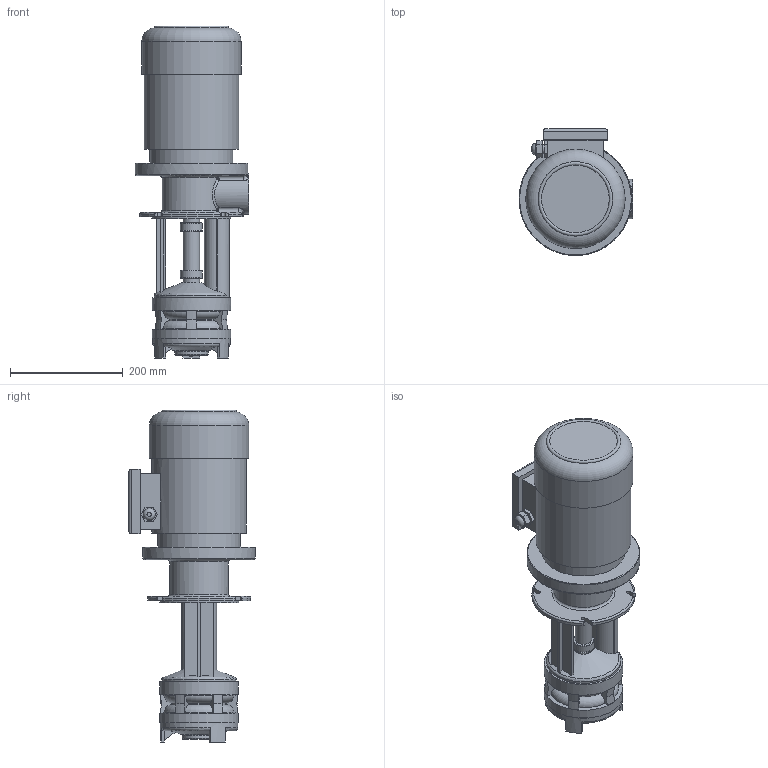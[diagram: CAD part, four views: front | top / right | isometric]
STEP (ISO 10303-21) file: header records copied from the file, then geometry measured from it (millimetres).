
FILE_DESCRIPTION(/* description */ ('Unknown'),/* implementation_level */ '2;1');
FILE_NAME(/* name */ 'gp2-250',/* time_stamp */ '2025-06-04T09:12:42+03:00',/* author */ ('Unknown'),/* organization */ ('Unknown'),/* preprocessor_version */ 'ST-DEVELOPER v16.7',/* originating_system */ 'DEX',/* authorisation */ $);
FILE_SCHEMA (('AUTOMOTIVE_DESIGN {1 0 10303 214 3 1 1}'));
Length unit declared in the file: millimetre
Products named in the file (1): gp2-250
Bounding box: 202 x 225 x 588.34 mm (x, y, z)
Volume: 9450899.7 mm3; surface area: 444698.1 mm2
Topology: 1 solids, 1 shells, 340 faces, 861 edges, 554 vertices
Faces by surface type: plane 122, bspline 84, cylinder 72, cone 33, torus 29
Full cylindrical faces by diameter (mm): 17 x1, 21.5 x1, 29 x3, 33 x2, 35 x2, 39 x2, 40.5 x2, 45 x1, 47 x1, 60 x1, 137 x1, 139 x2, 140 x1, 168.001 x1, 176 x1, 200 x1
Entity records: 12837 total; most frequent: CARTESIAN_POINT 5318, ORIENTED_EDGE 1608, DIRECTION 1359, EDGE_CURVE 804, VERTEX_POINT 546, AXIS2_PLACEMENT_3D 505, EDGE_LOOP 424, FACE_BOUND 424
